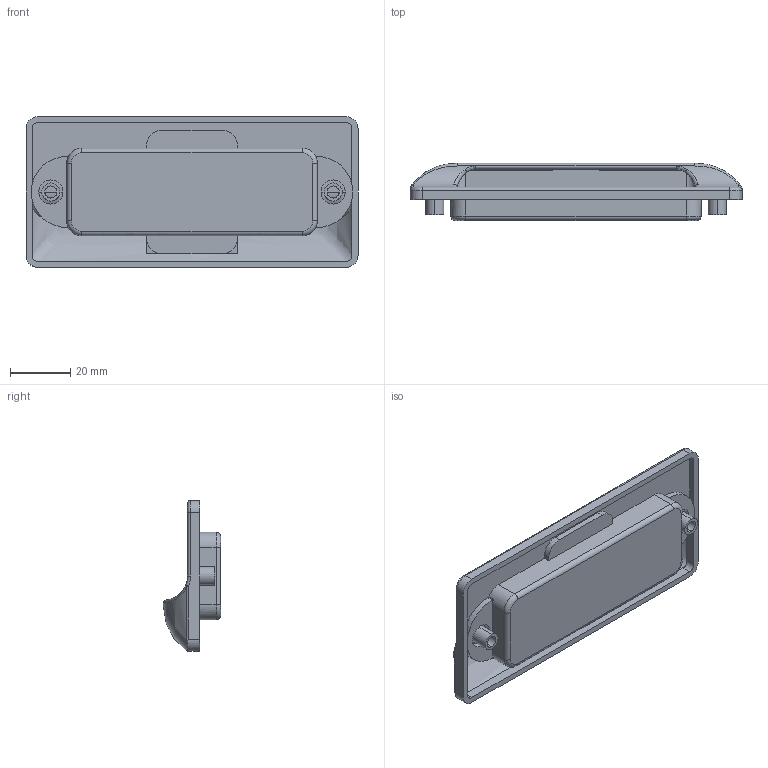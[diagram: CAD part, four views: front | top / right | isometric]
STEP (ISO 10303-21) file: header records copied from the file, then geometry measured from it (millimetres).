
FILE_DESCRIPTION (( 'STEP AP203' ), '1' );
FILE_NAME ('XG01-034-2.STEP', '2024-07-25T01:25:06', ( '' ), ( '' ), 'SwSTEP 2.0', 'SolidWorks 2020', '' );
FILE_SCHEMA (( 'CONFIG_CONTROL_DESIGN' ));
Length unit declared in the file: millimetre
Products named in the file (1): XG01-034-2
Bounding box: 110 x 19 x 50 mm (x, y, z)
Volume: 20532.3 mm3; surface area: 22510.9 mm2
Topology: 2 solids, 2 shells, 170 faces, 455 edges, 294 vertices
Faces by surface type: cylinder 78, plane 65, bspline 13, torus 12, sphere 2
Entity records: 9952 total; most frequent: CARTESIAN_POINT 5670, ORIENTED_EDGE 910, DIRECTION 856, EDGE_CURVE 455, AXIS2_PLACEMENT_3D 319, VERTEX_POINT 294, LINE 218, VECTOR 218
